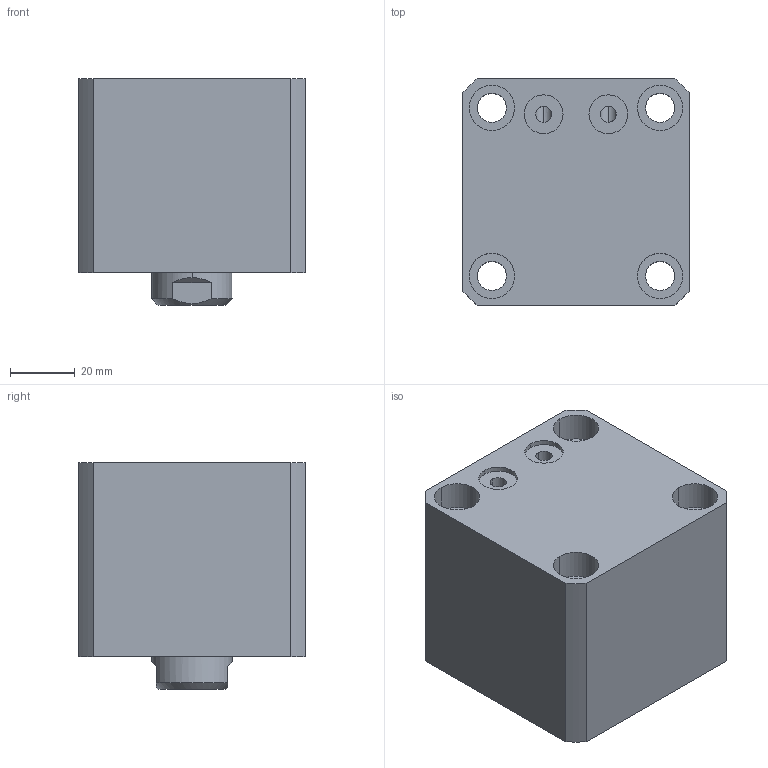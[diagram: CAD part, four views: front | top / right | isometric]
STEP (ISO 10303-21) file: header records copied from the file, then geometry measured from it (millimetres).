
FILE_DESCRIPTION (( 'STEP AP214' ), '1' );
FILE_NAME ('chtb-sdmb40x5n_asm.STEP', '2018-06-07T03:20:55', ( 'Windows' ), ( 'Microsoft' ), 'SwSTEP 2.0', 'SolidWorks 2015', '' );
FILE_SCHEMA (( 'AUTOMOTIVE_DESIGN' ));
Length unit declared in the file: millimetre
Products named in the file (4): CHTB-SDMB40X5NBT; CHTB-SD40X5NHSG; CHTB-SD40QG; chtb-sdmb40x5n_asm
Assembly tree (3 placements, depth 2):
  chtb-sdmb40x5n_asm
    CHTB-SD40QG
    CHTB-SD40X5NHSG
    CHTB-SDMB40X5NBT
Bounding box: 70 x 70 x 70 mm (x, y, z)
Volume: 260451.7 mm3; surface area: 61716.5 mm2
Topology: 3 solids, 3 shells, 155 faces, 407 edges, 270 vertices
Faces by surface type: cylinder 84, plane 34, bspline 14, torus 14, cone 9
Entity records: 10007 total; most frequent: CARTESIAN_POINT 6085, ORIENTED_EDGE 802, DIRECTION 758, EDGE_CURVE 401, AXIS2_PLACEMENT_3D 322, VERTEX_POINT 270, EDGE_LOOP 191, CIRCLE 175
